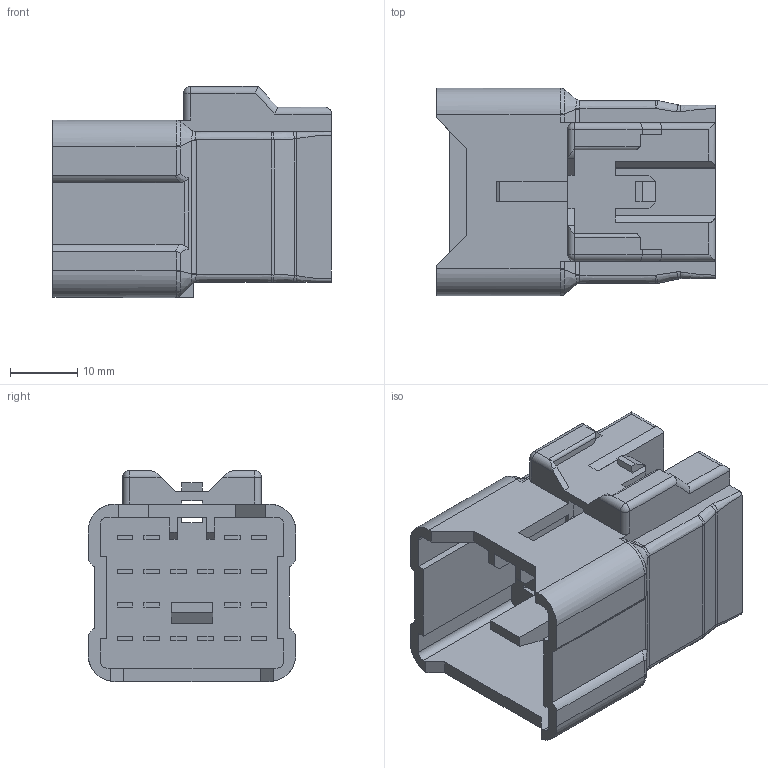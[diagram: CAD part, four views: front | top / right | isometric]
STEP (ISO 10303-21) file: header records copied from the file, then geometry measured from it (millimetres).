
FILE_DESCRIPTION(('CATIA V5 STEP','CAx-IF Rec.Pracs.--- Model Styling and Organization---1.4--- 2014-01-23'),'2;1');
FILE_NAME('N:\C-DAM_MyDesk\CONE1\COMMON\11_TOYOTA\カタログ\90980-10810_中野\6240_1035.stp','2023-09-11T11:01:22+00:00',('none'),('none'),'CATIA Version 5-6 Release 2017 SP5 HF58','CATIA V5 STEP AP214','none');
FILE_SCHEMA(('AUTOMOTIVE_DESIGN { 1 0 10303 214 1 1 1 1 }'));
Length unit declared in the file: millimetre
Products named in the file (1): 6240_1035
Bounding box: 41.5 x 30.9 x 31.4 mm (x, y, z)
Volume: 17542.4 mm3; surface area: 9320.4 mm2
Topology: 1 solids, 1 shells, 418 faces, 1069 edges, 688 vertices
Faces by surface type: plane 315, bspline 52, cylinder 49, sphere 2
Entity records: 14287 total; most frequent: CARTESIAN_POINT 5449, ORIENTED_EDGE 2134, DIRECTION 1233, EDGE_CURVE 1067, VECTOR 845, LINE 845, VERTEX_POINT 688, EDGE_LOOP 459
